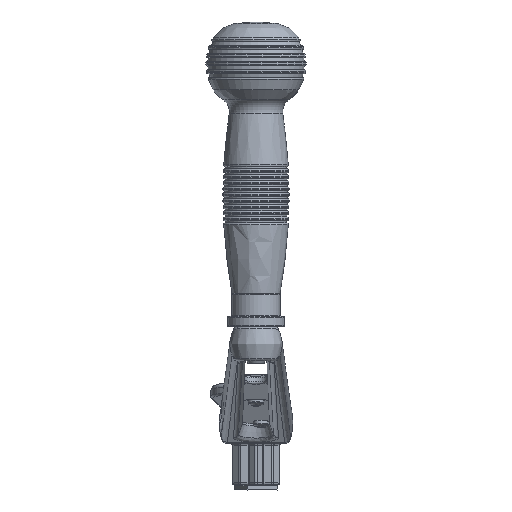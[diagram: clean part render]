
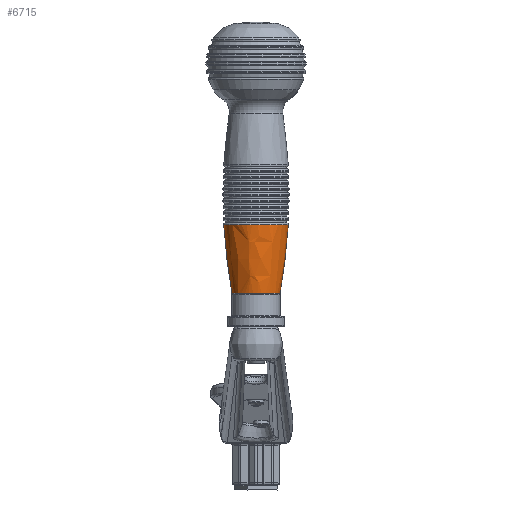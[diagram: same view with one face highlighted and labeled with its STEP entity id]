
A CAD part, front view. The second image highlights one B-rep face of the part: STEP entity #6715.
In plain terms, the highlighted free-form (B-spline) face has degree [2, 2] with [3, 9] control points.
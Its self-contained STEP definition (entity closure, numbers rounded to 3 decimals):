
#14=(
BOUNDED_SURFACE()
B_SPLINE_SURFACE(2,2,((#10753,#10754,#10755,#10756,#10757,#10758,#10759,
#10760,#10761),(#10762,#10763,#10764,#10765,#10766,#10767,#10768,#10769,
#10770),(#10771,#10772,#10773,#10774,#10775,#10776,#10777,#10778,#10779)),
 .UNSPECIFIED.,.F.,.T.,.F.)
B_SPLINE_SURFACE_WITH_KNOTS((3,3),(3,2,2,2,3),(-0.184,-0.055),
(-3.142,-1.571,0.,1.571,3.142),
 .UNSPECIFIED.)
GEOMETRIC_REPRESENTATION_ITEM()
RATIONAL_B_SPLINE_SURFACE(((1.,0.707,1.,0.707,1.,
0.707,1.,0.707,1.),(0.998,0.706,
0.998,0.706,0.998,0.706,
0.998,0.706,0.998),(1.,0.707,
1.,0.707,1.,0.707,1.,0.707,1.)))
REPRESENTATION_ITEM('')
SURFACE()
);
#375=(
BOUNDED_CURVE()
B_SPLINE_CURVE(2,(#10784,#10785,#10786),.UNSPECIFIED.,.F.,.F.)
B_SPLINE_CURVE_WITH_KNOTS((3,3),(0.055,0.184),
 .UNSPECIFIED.)
CURVE()
GEOMETRIC_REPRESENTATION_ITEM()
RATIONAL_B_SPLINE_CURVE((1.,0.998,1.))
REPRESENTATION_ITEM('')
);
#621=CIRCLE('',#7234,12.);
#622=CIRCLE('',#7235,12.);
#623=CIRCLE('',#7236,16.101);
#624=CIRCLE('',#7237,16.101);
#1255=FACE_OUTER_BOUND('',#1735,.T.);
#1735=EDGE_LOOP('',(#4674,#4675,#4676,#4677,#4678,#4679));
#2872=VERTEX_POINT('',#10749);
#2873=VERTEX_POINT('',#10750);
#2874=VERTEX_POINT('',#10780);
#2875=VERTEX_POINT('',#10781);
#3567=EDGE_CURVE('',#2872,#2873,#621,.T.);
#3568=EDGE_CURVE('',#2873,#2872,#622,.T.);
#3569=EDGE_CURVE('',#2874,#2875,#623,.T.);
#3570=EDGE_CURVE('',#2875,#2874,#624,.T.);
#3571=EDGE_CURVE('',#2875,#2873,#375,.T.);
#4674=ORIENTED_EDGE('',*,*,#3569,.F.);
#4675=ORIENTED_EDGE('',*,*,#3570,.F.);
#4676=ORIENTED_EDGE('',*,*,#3571,.T.);
#4677=ORIENTED_EDGE('',*,*,#3568,.T.);
#4678=ORIENTED_EDGE('',*,*,#3567,.T.);
#4679=ORIENTED_EDGE('',*,*,#3571,.F.);
#6715=ADVANCED_FACE('',(#1255),#14,.F.);
#7234=AXIS2_PLACEMENT_3D('',#10751,#8319,#8320);
#7235=AXIS2_PLACEMENT_3D('',#10752,#8321,#8322);
#7236=AXIS2_PLACEMENT_3D('',#10782,#8323,#8324);
#7237=AXIS2_PLACEMENT_3D('',#10783,#8325,#8326);
#8319=DIRECTION('center_axis',(0.,0.,
1.));
#8320=DIRECTION('ref_axis',(0.599,0.801,0.));
#8321=DIRECTION('center_axis',(0.,0.,
1.));
#8322=DIRECTION('ref_axis',(0.599,0.801,0.));
#8323=DIRECTION('center_axis',(0.,0.,
1.));
#8324=DIRECTION('ref_axis',(-0.599,-0.801,0.));
#8325=DIRECTION('center_axis',(0.,0.,
1.));
#8326=DIRECTION('ref_axis',(-0.599,-0.801,0.));
#10749=CARTESIAN_POINT('',(-12.173,-118.633,59.055));
#10750=CARTESIAN_POINT('',(-9.749,-135.43,59.055));
#10751=CARTESIAN_POINT('Origin',(-19.359,-128.244,59.055));
#10752=CARTESIAN_POINT('Origin',(-19.359,-128.244,59.055));
#10753=CARTESIAN_POINT('Ctrl Pts',(-9.749,-135.43,
59.055));
#10754=CARTESIAN_POINT('Ctrl Pts',(-2.562,-125.82,
59.055));
#10755=CARTESIAN_POINT('Ctrl Pts',(-12.173,-118.633,
59.055));
#10756=CARTESIAN_POINT('Ctrl Pts',(-21.783,-111.447,
59.055));
#10757=CARTESIAN_POINT('Ctrl Pts',(-28.969,-121.057,
59.055));
#10758=CARTESIAN_POINT('Ctrl Pts',(-36.155,-130.667,
59.055));
#10759=CARTESIAN_POINT('Ctrl Pts',(-26.545,-137.854,
59.055));
#10760=CARTESIAN_POINT('Ctrl Pts',(-16.935,-145.04,
59.055));
#10761=CARTESIAN_POINT('Ctrl Pts',(-9.749,-135.43,
59.055));
#10762=CARTESIAN_POINT('Ctrl Pts',(-7.22,-137.321,
76.));
#10763=CARTESIAN_POINT('Ctrl Pts',(1.857,-125.182,76.));
#10764=CARTESIAN_POINT('Ctrl Pts',(-10.282,-116.105,
76.));
#10765=CARTESIAN_POINT('Ctrl Pts',(-22.42,-107.028,
76.));
#10766=CARTESIAN_POINT('Ctrl Pts',(-31.497,-119.167,
76.));
#10767=CARTESIAN_POINT('Ctrl Pts',(-40.575,-131.305,
76.));
#10768=CARTESIAN_POINT('Ctrl Pts',(-28.436,-140.382,
76.));
#10769=CARTESIAN_POINT('Ctrl Pts',(-16.297,-149.459,
76.));
#10770=CARTESIAN_POINT('Ctrl Pts',(-7.22,-137.321,
76.));
#10771=CARTESIAN_POINT('Ctrl Pts',(-6.464,-137.886,
93.211));
#10772=CARTESIAN_POINT('Ctrl Pts',(3.178,-124.991,93.211));
#10773=CARTESIAN_POINT('Ctrl Pts',(-9.717,-115.349,
93.211));
#10774=CARTESIAN_POINT('Ctrl Pts',(-22.611,-105.707,
93.211));
#10775=CARTESIAN_POINT('Ctrl Pts',(-32.253,-118.601,93.211));
#10776=CARTESIAN_POINT('Ctrl Pts',(-41.896,-131.496,
93.211));
#10777=CARTESIAN_POINT('Ctrl Pts',(-29.001,-141.138,
93.211));
#10778=CARTESIAN_POINT('Ctrl Pts',(-16.107,-150.78,
93.211));
#10779=CARTESIAN_POINT('Ctrl Pts',(-6.464,-137.886,
93.211));
#10780=CARTESIAN_POINT('',(-9.717,-115.349,93.211));
#10781=CARTESIAN_POINT('',(-6.464,-137.886,93.211));
#10782=CARTESIAN_POINT('Origin',(-19.359,-128.244,93.211));
#10783=CARTESIAN_POINT('Origin',(-19.359,-128.244,93.211));
#10784=CARTESIAN_POINT('Ctrl Pts',(-6.464,-137.886,
93.211));
#10785=CARTESIAN_POINT('Ctrl Pts',(-7.22,-137.321,
76.));
#10786=CARTESIAN_POINT('Ctrl Pts',(-9.749,-135.43,
59.055));
